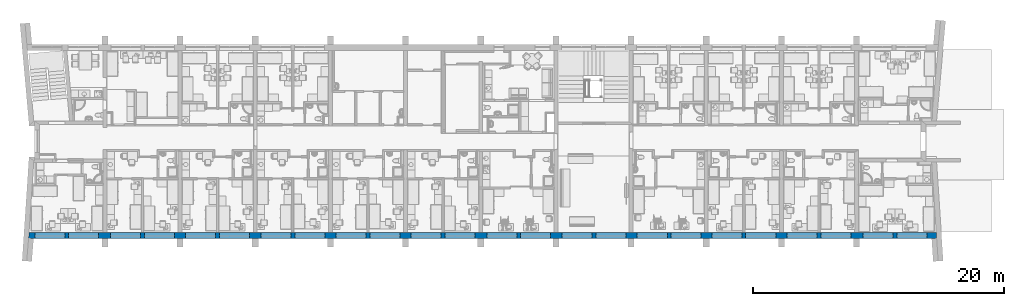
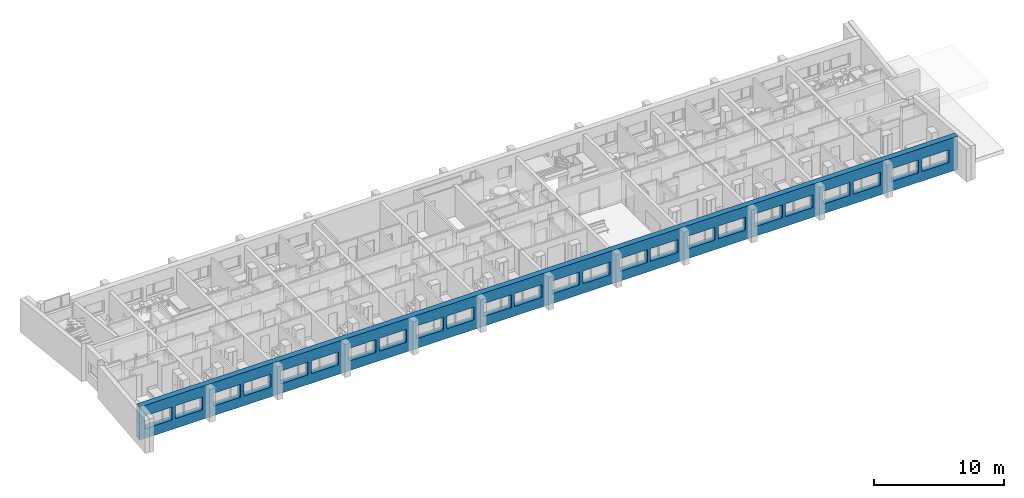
# One storey, part 10 of 172: 1 wall, 24 openings.
"""IFC2X3 building model written with IfcOpenShell, lengths in millimetres."""

from ifc_helpers import new_model, entity, si_unit, converted_unit, money_unit, direction, frame, origin_with_axes, place, context, subcontext, project, spatial, polyline, outline, extrude, material, layer, layer_set, layer_usage, type_object, element, save


model = new_model("IFC2X3")

# Units and contexts
model_context = context("Model", 3, precision=1e-05, world=origin_with_axes(), true_north=direction((0.0, 1.0)))
body_context = subcontext(model_context, "Body", "Model", "MODEL_VIEW")
ifc_project = project(units=[si_unit("LENGTHUNIT", "METRE", prefix="MILLI"), si_unit("AREAUNIT", "SQUARE_METRE"), si_unit("VOLUMEUNIT", "CUBIC_METRE"), converted_unit("PLANEANGLEUNIT", "DEGREE", entity("IfcPlaneAngleMeasure", 0.0174532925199), si_unit("PLANEANGLEUNIT", "RADIAN"), dimensions=[0, 0, 0, 0, 0, 0, 0]), si_unit("SOLIDANGLEUNIT", "STERADIAN"), money_unit("USD"), converted_unit("TIMEUNIT", "Year", entity("IfcTimeMeasure", 31556926.0), si_unit("TIMEUNIT", "SECOND"), dimensions=[0, 0, 0, 0, 0, 0, 0]), si_unit("MASSUNIT", "GRAM"), si_unit("THERMODYNAMICTEMPERATUREUNIT", "DEGREE_CELSIUS"), si_unit("LUMINOUSINTENSITYUNIT", "LUMEN")], contexts=[model_context])

# Site, building, storey
site_placement = place(None, origin_with_axes())
site = spatial("IfcSite", under=ifc_project, at=site_placement, Name="Site", CompositionType="ELEMENT")
building_placement = place(site_placement, origin_with_axes())
building = spatial("IfcBuilding", under=site, at=building_placement, Name="Building", CompositionType="ELEMENT")
storey_placement = place(building_placement, frame((0.0, 0.0, 3200.0), z_axis=(0.0, 0.0, 1.0), x_axis=(1.0, 0.0, 0.0)))
storey = spatial("IfcBuildingStorey", under=building, at=storey_placement, Name="3KORRUS", CompositionType="ELEMENT", Elevation=3200.0)

# Wall, openings
ifc_material = material(Name="Olemasolevad seinad tellis, uus viimistlus")
ifc_layer = layer(ifc_material, 500.0, ventilated="UNKNOWN")
ifc_layer_set = layer_set([ifc_layer], Name="Olemasolevad seinad tellis, uus viimistlus 500")
ifc_layer_usage = layer_usage(ifc_layer_set, "AXIS2", "POSITIVE", -400.0)
wall_type = type_object("IfcWallType", Name="Olemasolevad seinad tellis, uus viimistlus 500", PredefinedType="NOTDEFINED")
wall_placement = place(storey_placement, frame((-54605.6435345, -19739.2398994, 0.0), z_axis=(0.0, 0.0, 1.0), x_axis=(1.0, 0.0, 0.0)))
wall = element("IfcWallStandardCase", 1, at=wall_placement, inside=storey, type_object=wall_type, material=ifc_layer_usage, Name="VS1", ObjectType="VS1", context=body_context, shape_type="SweptSolid", body=[
    extrude(outline(polyline([(374.283472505, -400.0), (72856.41019, -400.0), (72823.1601874, 100.0), (407.533475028, 100.0), (374.283472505, -400.0)])), origin_with_axes(), (0.0, 0.0, 1.0), 3100.0),
])
opening_1_placement = place(wall_placement, frame((2069.70351472, 0.0, 900.0), z_axis=(0.0, 0.0, 1.0), x_axis=(1.0, 0.0, 0.0)))
element("IfcOpeningElement", 2, at=opening_1_placement, cuts=wall, Name="A1", context=body_context, shape_type="SweptSolid", body=[
    extrude(outline(polyline([(1200.0, 1200.0), (-1200.0, 1200.0), (-1200.0, 0.0), (1200.0, 0.0), (1200.0, 1200.0)])), frame((0.0, -200.0, 0.0), z_axis=(0.0, 1.0, 0.0), x_axis=(-1.0, 0.0, 0.0)), (0.0, 0.0, 1.0), 800.0),
    extrude(outline(polyline([(1200.0, 0.0), (-1200.0, 0.0), (-1200.0, -1200.0), (1200.0, -1200.0), (1200.0, 0.0)])), frame((0.0, -200.0, 0.0), z_axis=(0.0, -1.0, 0.0), x_axis=(-1.0, 0.0, 0.0)), (0.0, 0.0, 1.0), 700.0),
])
opening_2_placement = place(wall_placement, frame((4769.70351472, 0.0, 900.0), z_axis=(0.0, 0.0, 1.0), x_axis=(1.0, 0.0, 0.0)))
element("IfcOpeningElement", 3, at=opening_2_placement, cuts=wall, Name="A2", context=body_context, shape_type="SweptSolid", body=[
    extrude(outline(polyline([(-1200.0, 1200.0), (-1200.0, 0.0), (1200.0, 0.0), (1200.0, 1200.0), (-1200.0, 1200.0)])), frame((0.0, -200.0, 0.0), z_axis=(0.0, 1.0, 0.0), x_axis=(-1.0, 0.0, 0.0)), (0.0, 0.0, 1.0), 800.0),
    extrude(outline(polyline([(-1200.0, 0.0), (-1200.0, -1200.0), (1200.0, -1200.0), (1200.0, 0.0), (-1200.0, 0.0)])), frame((0.0, -200.0, 0.0), z_axis=(0.0, -1.0, 0.0), x_axis=(-1.0, 0.0, 0.0)), (0.0, 0.0, 1.0), 700.0),
])
opening_3_placement = place(wall_placement, frame((8115.56153524, 0.0, 900.0), z_axis=(0.0, 0.0, 1.0), x_axis=(1.0, 0.0, 0.0)))
element("IfcOpeningElement", 4, at=opening_3_placement, cuts=wall, Name="A1", context=body_context, shape_type="SweptSolid", body=[
    extrude(outline(polyline([(1200.0, 1200.0), (-1200.0, 1200.0), (-1200.0, 0.0), (1200.0, 0.0), (1200.0, 1200.0)])), frame((0.0, -200.0, 0.0), z_axis=(0.0, 1.0, 0.0), x_axis=(-1.0, 0.0, 0.0)), (0.0, 0.0, 1.0), 800.0),
    extrude(outline(polyline([(1200.0, 0.0), (-1200.0, 0.0), (-1200.0, -1200.0), (1200.0, -1200.0), (1200.0, 0.0)])), frame((0.0, -200.0, 0.0), z_axis=(0.0, -1.0, 0.0), x_axis=(-1.0, 0.0, 0.0)), (0.0, 0.0, 1.0), 700.0),
])
opening_4_placement = place(wall_placement, frame((10815.5615352, 0.0, 900.0), z_axis=(0.0, 0.0, 1.0), x_axis=(1.0, 0.0, 0.0)))
element("IfcOpeningElement", 5, at=opening_4_placement, cuts=wall, Name="A2", context=body_context, shape_type="SweptSolid", body=[
    extrude(outline(polyline([(-1200.0, 1200.0), (-1200.0, 0.0), (1200.0, 0.0), (1200.0, 1200.0), (-1200.0, 1200.0)])), frame((0.0, -200.0, 0.0), z_axis=(0.0, 1.0, 0.0), x_axis=(-1.0, 0.0, 0.0)), (0.0, 0.0, 1.0), 800.0),
    extrude(outline(polyline([(-1200.0, 0.0), (-1200.0, -1200.0), (1200.0, -1200.0), (1200.0, 0.0), (-1200.0, 0.0)])), frame((0.0, -200.0, 0.0), z_axis=(0.0, -1.0, 0.0), x_axis=(-1.0, 0.0, 0.0)), (0.0, 0.0, 1.0), 700.0),
])
opening_5_placement = place(wall_placement, frame((14107.6936247, 0.0, 900.0), z_axis=(0.0, 0.0, 1.0), x_axis=(1.0, 0.0, 0.0)))
element("IfcOpeningElement", 6, at=opening_5_placement, cuts=wall, Name="A1", context=body_context, shape_type="SweptSolid", body=[
    extrude(outline(polyline([(1200.0, 1200.0), (-1200.0, 1200.0), (-1200.0, 0.0), (1200.0, 0.0), (1200.0, 1200.0)])), frame((0.0, -200.0, 0.0), z_axis=(0.0, 1.0, 0.0), x_axis=(-1.0, 0.0, 0.0)), (0.0, 0.0, 1.0), 800.0),
    extrude(outline(polyline([(1200.0, 0.0), (-1200.0, 0.0), (-1200.0, -1200.0), (1200.0, -1200.0), (1200.0, 0.0)])), frame((0.0, -200.0, 0.0), z_axis=(0.0, -1.0, 0.0), x_axis=(-1.0, 0.0, 0.0)), (0.0, 0.0, 1.0), 700.0),
])
opening_6_placement = place(wall_placement, frame((16807.6936247, 0.0, 900.0), z_axis=(0.0, 0.0, 1.0), x_axis=(1.0, 0.0, 0.0)))
element("IfcOpeningElement", 7, at=opening_6_placement, cuts=wall, Name="A2", context=body_context, shape_type="SweptSolid", body=[
    extrude(outline(polyline([(-1200.0, 1200.0), (-1200.0, 0.0), (1200.0, 0.0), (1200.0, 1200.0), (-1200.0, 1200.0)])), frame((0.0, -200.0, 0.0), z_axis=(0.0, 1.0, 0.0), x_axis=(-1.0, 0.0, 0.0)), (0.0, 0.0, 1.0), 800.0),
    extrude(outline(polyline([(-1200.0, 0.0), (-1200.0, -1200.0), (1200.0, -1200.0), (1200.0, 0.0), (-1200.0, 0.0)])), frame((0.0, -200.0, 0.0), z_axis=(0.0, -1.0, 0.0), x_axis=(-1.0, 0.0, 0.0)), (0.0, 0.0, 1.0), 700.0),
])
opening_7_placement = place(wall_placement, frame((20121.4429017, 0.0, 900.0), z_axis=(0.0, 0.0, 1.0), x_axis=(1.0, 0.0, 0.0)))
element("IfcOpeningElement", 8, at=opening_7_placement, cuts=wall, Name="A1", context=body_context, shape_type="SweptSolid", body=[
    extrude(outline(polyline([(1200.0, 1200.0), (-1200.0, 1200.0), (-1200.0, 0.0), (1200.0, 0.0), (1200.0, 1200.0)])), frame((0.0, -200.0, 0.0), z_axis=(0.0, 1.0, 0.0), x_axis=(-1.0, 0.0, 0.0)), (0.0, 0.0, 1.0), 800.0),
    extrude(outline(polyline([(1200.0, 0.0), (-1200.0, 0.0), (-1200.0, -1200.0), (1200.0, -1200.0), (1200.0, 0.0)])), frame((0.0, -200.0, 0.0), z_axis=(0.0, -1.0, 0.0), x_axis=(-1.0, 0.0, 0.0)), (0.0, 0.0, 1.0), 700.0),
])
opening_8_placement = place(wall_placement, frame((22821.4429017, 0.0, 900.0), z_axis=(0.0, 0.0, 1.0), x_axis=(1.0, 0.0, 0.0)))
element("IfcOpeningElement", 9, at=opening_8_placement, cuts=wall, Name="A2", context=body_context, shape_type="SweptSolid", body=[
    extrude(outline(polyline([(-1200.0, 1200.0), (-1200.0, 0.0), (1200.0, 0.0), (1200.0, 1200.0), (-1200.0, 1200.0)])), frame((0.0, -200.0, 0.0), z_axis=(0.0, 1.0, 0.0), x_axis=(-1.0, 0.0, 0.0)), (0.0, 0.0, 1.0), 800.0),
    extrude(outline(polyline([(-1200.0, 0.0), (-1200.0, -1200.0), (1200.0, -1200.0), (1200.0, 0.0), (-1200.0, 0.0)])), frame((0.0, -200.0, 0.0), z_axis=(0.0, -1.0, 0.0), x_axis=(-1.0, 0.0, 0.0)), (0.0, 0.0, 1.0), 700.0),
])
opening_9_placement = place(wall_placement, frame((26118.7584529, 0.0, 900.0), z_axis=(0.0, 0.0, 1.0), x_axis=(1.0, 0.0, 0.0)))
element("IfcOpeningElement", 10, at=opening_9_placement, cuts=wall, Name="A1", context=body_context, shape_type="SweptSolid", body=[
    extrude(outline(polyline([(1200.0, 1200.0), (-1200.0, 1200.0), (-1200.0, 0.0), (1200.0, 0.0), (1200.0, 1200.0)])), frame((0.0, -200.0, 0.0), z_axis=(0.0, 1.0, 0.0), x_axis=(-1.0, 0.0, 0.0)), (0.0, 0.0, 1.0), 800.0),
    extrude(outline(polyline([(1200.0, 0.0), (-1200.0, 0.0), (-1200.0, -1200.0), (1200.0, -1200.0), (1200.0, 0.0)])), frame((0.0, -200.0, 0.0), z_axis=(0.0, -1.0, 0.0), x_axis=(-1.0, 0.0, 0.0)), (0.0, 0.0, 1.0), 700.0),
])
opening_10_placement = place(wall_placement, frame((28818.7584529, 0.0, 900.0), z_axis=(0.0, 0.0, 1.0), x_axis=(1.0, 0.0, 0.0)))
element("IfcOpeningElement", 11, at=opening_10_placement, cuts=wall, Name="A2", context=body_context, shape_type="SweptSolid", body=[
    extrude(outline(polyline([(-1200.0, 1200.0), (-1200.0, 0.0), (1200.0, 0.0), (1200.0, 1200.0), (-1200.0, 1200.0)])), frame((0.0, -200.0, 0.0), z_axis=(0.0, 1.0, 0.0), x_axis=(-1.0, 0.0, 0.0)), (0.0, 0.0, 1.0), 800.0),
    extrude(outline(polyline([(-1200.0, 0.0), (-1200.0, -1200.0), (1200.0, -1200.0), (1200.0, 0.0), (-1200.0, 0.0)])), frame((0.0, -200.0, 0.0), z_axis=(0.0, -1.0, 0.0), x_axis=(-1.0, 0.0, 0.0)), (0.0, 0.0, 1.0), 700.0),
])
opening_11_placement = place(wall_placement, frame((32107.4199651, 0.0, 900.0), z_axis=(0.0, 0.0, 1.0), x_axis=(1.0, 0.0, 0.0)))
element("IfcOpeningElement", 12, at=opening_11_placement, cuts=wall, Name="A1", context=body_context, shape_type="SweptSolid", body=[
    extrude(outline(polyline([(1200.0, 1200.0), (-1200.0, 1200.0), (-1200.0, 0.0), (1200.0, 0.0), (1200.0, 1200.0)])), frame((0.0, -200.0, 0.0), z_axis=(0.0, 1.0, 0.0), x_axis=(-1.0, 0.0, 0.0)), (0.0, 0.0, 1.0), 800.0),
    extrude(outline(polyline([(1200.0, 0.0), (-1200.0, 0.0), (-1200.0, -1200.0), (1200.0, -1200.0), (1200.0, 0.0)])), frame((0.0, -200.0, 0.0), z_axis=(0.0, -1.0, 0.0), x_axis=(-1.0, 0.0, 0.0)), (0.0, 0.0, 1.0), 700.0),
])
opening_12_placement = place(wall_placement, frame((34807.4199651, 0.0, 900.0), z_axis=(0.0, 0.0, 1.0), x_axis=(1.0, 0.0, 0.0)))
element("IfcOpeningElement", 13, at=opening_12_placement, cuts=wall, Name="A2", context=body_context, shape_type="SweptSolid", body=[
    extrude(outline(polyline([(-1200.0, 1200.0), (-1200.0, 0.0), (1200.0, 0.0), (1200.0, 1200.0), (-1200.0, 1200.0)])), frame((0.0, -200.0, 0.0), z_axis=(0.0, 1.0, 0.0), x_axis=(-1.0, 0.0, 0.0)), (0.0, 0.0, 1.0), 800.0),
    extrude(outline(polyline([(-1200.0, 0.0), (-1200.0, -1200.0), (1200.0, -1200.0), (1200.0, 0.0), (-1200.0, 0.0)])), frame((0.0, -200.0, 0.0), z_axis=(0.0, -1.0, 0.0), x_axis=(-1.0, 0.0, 0.0)), (0.0, 0.0, 1.0), 700.0),
])
opening_13_placement = place(wall_placement, frame((38143.4602621, 0.0, 900.0), z_axis=(0.0, 0.0, 1.0), x_axis=(1.0, 0.0, 0.0)))
element("IfcOpeningElement", 14, at=opening_13_placement, cuts=wall, Name="A1", context=body_context, shape_type="SweptSolid", body=[
    extrude(outline(polyline([(1200.0, 1200.0), (-1200.0, 1200.0), (-1200.0, 0.0), (1200.0, 0.0), (1200.0, 1200.0)])), frame((0.0, -200.0, 0.0), z_axis=(0.0, 1.0, 0.0), x_axis=(-1.0, 0.0, 0.0)), (0.0, 0.0, 1.0), 800.0),
    extrude(outline(polyline([(1200.0, 0.0), (-1200.0, 0.0), (-1200.0, -1200.0), (1200.0, -1200.0), (1200.0, 0.0)])), frame((0.0, -200.0, 0.0), z_axis=(0.0, -1.0, 0.0), x_axis=(-1.0, 0.0, 0.0)), (0.0, 0.0, 1.0), 700.0),
])
opening_14_placement = place(wall_placement, frame((40843.4602621, 0.0, 900.0), z_axis=(0.0, 0.0, 1.0), x_axis=(1.0, 0.0, 0.0)))
element("IfcOpeningElement", 15, at=opening_14_placement, cuts=wall, Name="A2", context=body_context, shape_type="SweptSolid", body=[
    extrude(outline(polyline([(-1200.0, 1200.0), (-1200.0, 0.0), (1200.0, 0.0), (1200.0, 1200.0), (-1200.0, 1200.0)])), frame((0.0, -200.0, 0.0), z_axis=(0.0, 1.0, 0.0), x_axis=(-1.0, 0.0, 0.0)), (0.0, 0.0, 1.0), 800.0),
    extrude(outline(polyline([(-1200.0, 0.0), (-1200.0, -1200.0), (1200.0, -1200.0), (1200.0, 0.0), (-1200.0, 0.0)])), frame((0.0, -200.0, 0.0), z_axis=(0.0, -1.0, 0.0), x_axis=(-1.0, 0.0, 0.0)), (0.0, 0.0, 1.0), 700.0),
])
opening_15_placement = place(wall_placement, frame((44153.3468312, 0.0, 900.0), z_axis=(0.0, 0.0, 1.0), x_axis=(1.0, 0.0, 0.0)))
element("IfcOpeningElement", 16, at=opening_15_placement, cuts=wall, Name="A1", context=body_context, shape_type="SweptSolid", body=[
    extrude(outline(polyline([(1200.0, 1200.0), (-1200.0, 1200.0), (-1200.0, 0.0), (1200.0, 0.0), (1200.0, 1200.0)])), frame((0.0, -200.0, 0.0), z_axis=(0.0, 1.0, 0.0), x_axis=(-1.0, 0.0, 0.0)), (0.0, 0.0, 1.0), 800.0),
    extrude(outline(polyline([(1200.0, 0.0), (-1200.0, 0.0), (-1200.0, -1200.0), (1200.0, -1200.0), (1200.0, 0.0)])), frame((0.0, -200.0, 0.0), z_axis=(0.0, -1.0, 0.0), x_axis=(-1.0, 0.0, 0.0)), (0.0, 0.0, 1.0), 700.0),
])
opening_16_placement = place(wall_placement, frame((50153.3468312, 0.0, 900.0), z_axis=(0.0, 0.0, 1.0), x_axis=(1.0, 0.0, 0.0)))
element("IfcOpeningElement", 17, at=opening_16_placement, cuts=wall, Name="A1", context=body_context, shape_type="SweptSolid", body=[
    extrude(outline(polyline([(1200.0, 1200.0), (-1200.0, 1200.0), (-1200.0, 0.0), (1200.0, 0.0), (1200.0, 1200.0)])), frame((0.0, -200.0, 0.0), z_axis=(0.0, 1.0, 0.0), x_axis=(-1.0, 0.0, 0.0)), (0.0, 0.0, 1.0), 800.0),
    extrude(outline(polyline([(1200.0, 0.0), (-1200.0, 0.0), (-1200.0, -1200.0), (1200.0, -1200.0), (1200.0, 0.0)])), frame((0.0, -200.0, 0.0), z_axis=(0.0, -1.0, 0.0), x_axis=(-1.0, 0.0, 0.0)), (0.0, 0.0, 1.0), 700.0),
])
opening_17_placement = place(wall_placement, frame((52853.3468312, 0.0, 900.0), z_axis=(0.0, 0.0, 1.0), x_axis=(1.0, 0.0, 0.0)))
element("IfcOpeningElement", 18, at=opening_17_placement, cuts=wall, Name="A2", context=body_context, shape_type="SweptSolid", body=[
    extrude(outline(polyline([(-1200.0, 1200.0), (-1200.0, 0.0), (1200.0, 0.0), (1200.0, 1200.0), (-1200.0, 1200.0)])), frame((0.0, -200.0, 0.0), z_axis=(0.0, 1.0, 0.0), x_axis=(-1.0, 0.0, 0.0)), (0.0, 0.0, 1.0), 800.0),
    extrude(outline(polyline([(-1200.0, 0.0), (-1200.0, -1200.0), (1200.0, -1200.0), (1200.0, 0.0), (-1200.0, 0.0)])), frame((0.0, -200.0, 0.0), z_axis=(0.0, -1.0, 0.0), x_axis=(-1.0, 0.0, 0.0)), (0.0, 0.0, 1.0), 700.0),
])
opening_18_placement = place(wall_placement, frame((56111.2469198, 0.0, 900.0), z_axis=(0.0, 0.0, 1.0), x_axis=(1.0, 0.0, 0.0)))
element("IfcOpeningElement", 19, at=opening_18_placement, cuts=wall, Name="A1", context=body_context, shape_type="SweptSolid", body=[
    extrude(outline(polyline([(1200.0, 1200.0), (-1200.0, 1200.0), (-1200.0, 0.0), (1200.0, 0.0), (1200.0, 1200.0)])), frame((0.0, -200.0, 0.0), z_axis=(0.0, 1.0, 0.0), x_axis=(-1.0, 0.0, 0.0)), (0.0, 0.0, 1.0), 800.0),
    extrude(outline(polyline([(1200.0, 0.0), (-1200.0, 0.0), (-1200.0, -1200.0), (1200.0, -1200.0), (1200.0, 0.0)])), frame((0.0, -200.0, 0.0), z_axis=(0.0, -1.0, 0.0), x_axis=(-1.0, 0.0, 0.0)), (0.0, 0.0, 1.0), 700.0),
])
opening_19_placement = place(wall_placement, frame((58811.2469198, 0.0, 900.0), z_axis=(0.0, 0.0, 1.0), x_axis=(1.0, 0.0, 0.0)))
element("IfcOpeningElement", 20, at=opening_19_placement, cuts=wall, Name="A2", context=body_context, shape_type="SweptSolid", body=[
    extrude(outline(polyline([(-1200.0, 1200.0), (-1200.0, 0.0), (1200.0, 0.0), (1200.0, 1200.0), (-1200.0, 1200.0)])), frame((0.0, -200.0, 0.0), z_axis=(0.0, 1.0, 0.0), x_axis=(-1.0, 0.0, 0.0)), (0.0, 0.0, 1.0), 800.0),
    extrude(outline(polyline([(-1200.0, 0.0), (-1200.0, -1200.0), (1200.0, -1200.0), (1200.0, 0.0), (-1200.0, 0.0)])), frame((0.0, -200.0, 0.0), z_axis=(0.0, -1.0, 0.0), x_axis=(-1.0, 0.0, 0.0)), (0.0, 0.0, 1.0), 700.0),
])
opening_20_placement = place(wall_placement, frame((46853.3468312, 0.0, 900.0), z_axis=(0.0, 0.0, 1.0), x_axis=(1.0, 0.0, 0.0)))
element("IfcOpeningElement", 21, at=opening_20_placement, cuts=wall, Name="A2", context=body_context, shape_type="SweptSolid", body=[
    extrude(outline(polyline([(-1200.0, 1200.0), (-1200.0, 0.0), (1200.0, 0.0), (1200.0, 1200.0), (-1200.0, 1200.0)])), frame((0.0, -200.0, 0.0), z_axis=(0.0, 1.0, 0.0), x_axis=(-1.0, 0.0, 0.0)), (0.0, 0.0, 1.0), 800.0),
    extrude(outline(polyline([(-1200.0, 0.0), (-1200.0, -1200.0), (1200.0, -1200.0), (1200.0, 0.0), (-1200.0, 0.0)])), frame((0.0, -200.0, 0.0), z_axis=(0.0, -1.0, 0.0), x_axis=(-1.0, 0.0, 0.0)), (0.0, 0.0, 1.0), 700.0),
])
opening_21_placement = place(wall_placement, frame((64811.2469198, 0.0, 900.0), z_axis=(0.0, 0.0, 1.0), x_axis=(1.0, 0.0, 0.0)))
element("IfcOpeningElement", 22, at=opening_21_placement, cuts=wall, Name="A2", context=body_context, shape_type="SweptSolid", body=[
    extrude(outline(polyline([(-1200.0, 1200.0), (-1200.0, 0.0), (1200.0, 0.0), (1200.0, 1200.0), (-1200.0, 1200.0)])), frame((0.0, -200.0, 0.0), z_axis=(0.0, 1.0, 0.0), x_axis=(-1.0, 0.0, 0.0)), (0.0, 0.0, 1.0), 800.0),
    extrude(outline(polyline([(-1200.0, 0.0), (-1200.0, -1200.0), (1200.0, -1200.0), (1200.0, 0.0), (-1200.0, 0.0)])), frame((0.0, -200.0, 0.0), z_axis=(0.0, -1.0, 0.0), x_axis=(-1.0, 0.0, 0.0)), (0.0, 0.0, 1.0), 700.0),
])
opening_22_placement = place(wall_placement, frame((62111.2469198, 0.0, 900.0), z_axis=(0.0, 0.0, 1.0), x_axis=(1.0, 0.0, 0.0)))
element("IfcOpeningElement", 23, at=opening_22_placement, cuts=wall, Name="A1", context=body_context, shape_type="SweptSolid", body=[
    extrude(outline(polyline([(1200.0, 1200.0), (-1200.0, 1200.0), (-1200.0, 0.0), (1200.0, 0.0), (1200.0, 1200.0)])), frame((0.0, -200.0, 0.0), z_axis=(0.0, 1.0, 0.0), x_axis=(-1.0, 0.0, 0.0)), (0.0, 0.0, 1.0), 800.0),
    extrude(outline(polyline([(1200.0, 0.0), (-1200.0, 0.0), (-1200.0, -1200.0), (1200.0, -1200.0), (1200.0, 0.0)])), frame((0.0, -200.0, 0.0), z_axis=(0.0, -1.0, 0.0), x_axis=(-1.0, 0.0, 0.0)), (0.0, 0.0, 1.0), 700.0),
])
opening_23_placement = place(wall_placement, frame((70880.9519825, 0.0, 900.0), z_axis=(0.0, 0.0, 1.0), x_axis=(1.0, 0.0, 0.0)))
element("IfcOpeningElement", 24, at=opening_23_placement, cuts=wall, Name="A2", context=body_context, shape_type="SweptSolid", body=[
    extrude(outline(polyline([(-1200.0, 1200.0), (-1200.0, 0.0), (1200.0, 0.0), (1200.0, 1200.0), (-1200.0, 1200.0)])), frame((0.0, -200.0, 0.0), z_axis=(0.0, 1.0, 0.0), x_axis=(-1.0, 0.0, 0.0)), (0.0, 0.0, 1.0), 800.0),
    extrude(outline(polyline([(-1200.0, 0.0), (-1200.0, -1200.0), (1200.0, -1200.0), (1200.0, 0.0), (-1200.0, 0.0)])), frame((0.0, -200.0, 0.0), z_axis=(0.0, -1.0, 0.0), x_axis=(-1.0, 0.0, 0.0)), (0.0, 0.0, 1.0), 700.0),
])
opening_24_placement = place(wall_placement, frame((68180.9519825, 0.0, 900.0), z_axis=(0.0, 0.0, 1.0), x_axis=(1.0, 0.0, 0.0)))
element("IfcOpeningElement", 25, at=opening_24_placement, cuts=wall, Name="A1", context=body_context, shape_type="SweptSolid", body=[
    extrude(outline(polyline([(1200.0, 1200.0), (-1200.0, 1200.0), (-1200.0, 0.0), (1200.0, 0.0), (1200.0, 1200.0)])), frame((0.0, -200.0, 0.0), z_axis=(0.0, 1.0, 0.0), x_axis=(-1.0, 0.0, 0.0)), (0.0, 0.0, 1.0), 800.0),
    extrude(outline(polyline([(1200.0, 0.0), (-1200.0, 0.0), (-1200.0, -1200.0), (1200.0, -1200.0), (1200.0, 0.0)])), frame((0.0, -200.0, 0.0), z_axis=(0.0, -1.0, 0.0), x_axis=(-1.0, 0.0, 0.0)), (0.0, 0.0, 1.0), 700.0),
])

save(model, "model.ifc")
